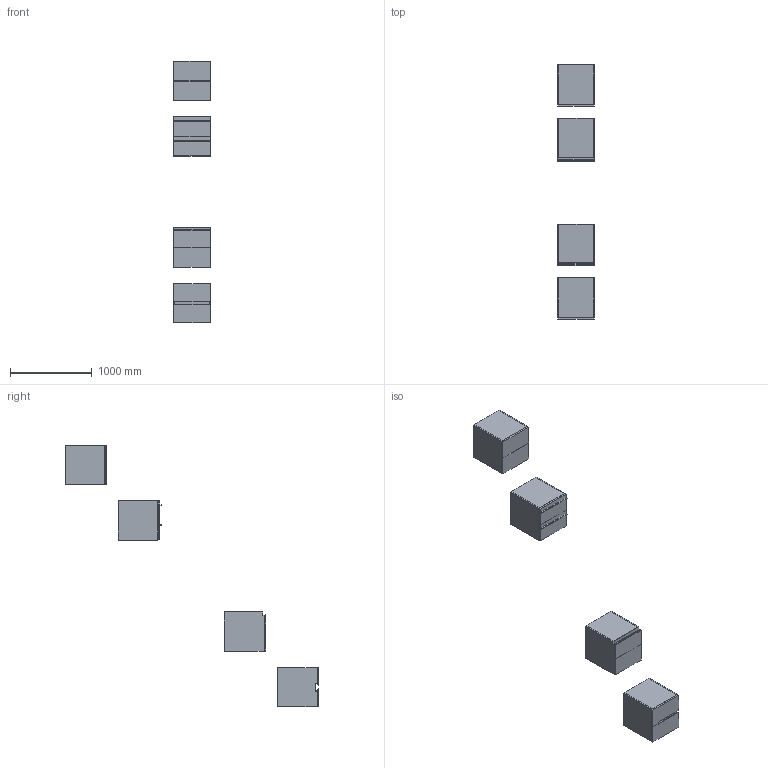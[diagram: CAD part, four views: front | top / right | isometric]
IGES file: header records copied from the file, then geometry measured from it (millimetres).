
Start section: Data from Parasolid IGES Translator 19.0.9, Copyright(c) 2006 Siemens PL M Software. All Rights Reserved.
Global section: file name: noorth-SI-H 48 D 51 W 45_8580.igs; native system: By Siemens PLM Incorporated; preprocessor: XPlus GENERIC/IGES 19.0.9; author: Noname; organization: Noname; date: 20200601.112801; units: metre
Bounding box: 450 x 3107.1 x 3200.01 mm (x, y, z)
Volume: 73519022.4 mm3; surface area: 11039950.5 mm2
Topology: 33 solids, 33 shells, 318 faces, 700 edges, 428 vertices
Faces by surface type: plane 230, extrusion 36, bspline 32, cylinder 20
